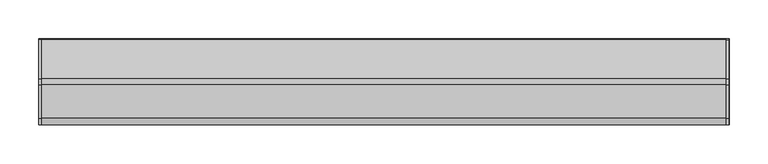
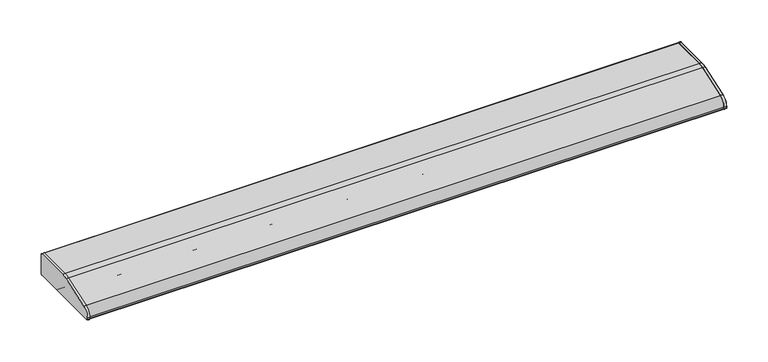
"""IFC4 building model written with IfcOpenShell, lengths in millimetres: light fixture geometry, HermanMiller_SupplementalProducts_G6136_UtilityTaskLight : AO Etho Canvas 42W."""

from ifc_helpers import new_model, si_unit, point, frame, frame_2d, origin, place, context, project, spatial, polyline, circle_curve, trimmed, segment, composite_curve, outline, extrude, source, transform, mapped, element, save


def light_fixture_63fea846(model_context):
    return source(origin(), model_context, "Body", "SweptSolid", [
        extrude(outline(composite_curve([segment(polyline([(53.975, 1295.4), (-53.975, 1295.4)]), True, "CONTINUOUS"), segment(trimmed(circle_curve(frame_2d((-53.975, 1296.9875)), 1.5875), [point((-53.975, 1295.4))], [point((-55.5625, 1296.9875))], False, "CARTESIAN"), True, "CONTINUOUS"), segment(polyline([(-55.5625, 1296.9875), (-55.5625, 1299.0285714)]), True, "CONTINUOUS"), segment(trimmed(circle_curve(frame_2d((-42.8625, 1299.0285714)), 12.7), [point((-55.5625, 1299.0285714))], [point((-46.9814189, 1311.0420849))], False, "CARTESIAN"), True, "CONTINUOUS"), segment(polyline([(-46.9814189, 1311.0420849), (-4.0045045, 1325.777027)]), True, "CONTINUOUS"), segment(trimmed(circle_curve(frame_2d((4.2333333, 1301.75)), 25.4), [point((-4.0045045, 1325.777027))], [point((4.2333333, 1327.15))], False, "CARTESIAN"), True, "CONTINUOUS"), segment(polyline([(4.2333333, 1327.15), (53.975, 1327.15)]), True, "CONTINUOUS"), segment(trimmed(circle_curve(frame_2d((53.975, 1325.5625)), 1.5875), [point((53.975, 1327.15))], [point((55.5625, 1325.5625))], False, "CARTESIAN"), True, "CONTINUOUS"), segment(polyline([(55.5625, 1325.5625), (55.5625, 1296.9875)]), True, "CONTINUOUS"), segment(trimmed(circle_curve(frame_2d((53.975, 1296.9875)), 1.5875), [point((55.5625, 1296.9875))], [point((53.975, 1295.4))], False, "CARTESIAN"), True, "CONTINUOUS")], self_intersect=False)), frame((441.833, 0.0, 0.0), z_axis=(1.0, 0.0, 0.0), x_axis=(0.0, 1.0, 0.0)), (0.0, 0.0, 1.0), 3.175),
        extrude(outline(composite_curve([segment(trimmed(circle_curve(frame_2d((53.975, 1325.5625)), 1.5875), [point((53.975, 1327.15))], [point((55.5625, 1325.5625))], False, "CARTESIAN"), True, "CONTINUOUS"), segment(polyline([(55.5625, 1325.5625), (55.5625, 1296.9875)]), True, "CONTINUOUS"), segment(trimmed(circle_curve(frame_2d((53.975, 1296.9875)), 1.5875), [point((55.5625, 1296.9875))], [point((53.975, 1295.4))], False, "CARTESIAN"), True, "CONTINUOUS"), segment(polyline([(53.975, 1295.4), (-53.975, 1295.4)]), True, "CONTINUOUS"), segment(trimmed(circle_curve(frame_2d((-53.975, 1296.9875)), 1.5875), [point((-53.975, 1295.4))], [point((-55.5625, 1296.9875))], False, "CARTESIAN"), True, "CONTINUOUS"), segment(polyline([(-55.5625, 1296.9875), (-55.5625, 1299.0285714)]), True, "CONTINUOUS"), segment(trimmed(circle_curve(frame_2d((-42.8625, 1299.0285714)), 12.7), [point((-55.5625, 1299.0285714))], [point((-46.9814189, 1311.0420849))], False, "CARTESIAN"), True, "CONTINUOUS"), segment(polyline([(-46.9814189, 1311.0420849), (-4.0045045, 1325.777027)]), True, "CONTINUOUS"), segment(trimmed(circle_curve(frame_2d((4.2333333, 1301.75)), 25.4), [point((-4.0045045, 1325.777027))], [point((4.2333333, 1327.15))], False, "CARTESIAN"), True, "CONTINUOUS"), segment(polyline([(4.2333333, 1327.15), (53.975, 1327.15)]), True, "CONTINUOUS")], self_intersect=False)), frame((-445.008, 0.0, 0.0), z_axis=(1.0, 0.0, 0.0), x_axis=(0.0, 1.0, 0.0)), (0.0, 0.0, 1.0), 3.175),
        extrude(outline(composite_curve([segment(polyline([(55.5625, 1325.5625), (55.5625, 1296.9875)]), True, "CONTINUOUS"), segment(trimmed(circle_curve(frame_2d((53.975, 1296.9875)), 1.5875), [point((55.5625, 1296.9875))], [point((53.975, 1295.4))], False, "CARTESIAN"), True, "CONTINUOUS"), segment(polyline([(53.975, 1295.4), (19.05, 1295.4)]), True, "CONTINUOUS"), segment(trimmed(circle_curve(frame_2d((19.05, 1296.9875)), 1.5875), [point((19.05, 1295.4))], [point((17.4625, 1296.9875))], False, "CARTESIAN"), True, "CONTINUOUS"), segment(polyline([(17.4625, 1296.9875), (17.4625, 1325.5625), (4.4979167, 1325.5625)]), True, "CONTINUOUS"), segment(trimmed(circle_curve(frame_2d((4.4979167, 1300.1625)), 25.4), [point((4.4979167, 1325.5625))], [point((-3.7399212, 1324.189527))], True, "CARTESIAN"), True, "CONTINUOUS"), segment(polyline([(-3.7399212, 1324.189527), (-37.4564189, 1312.6295849)]), True, "CONTINUOUS"), segment(trimmed(circle_curve(frame_2d((-33.3375, 1300.6160714)), 12.7), [point((-37.4564189, 1312.6295849))], [point((-46.0375, 1300.6160714))], True, "CARTESIAN"), True, "CONTINUOUS"), segment(polyline([(-46.0375, 1300.6160714), (-46.0375, 1296.9875)]), True, "CONTINUOUS"), segment(trimmed(circle_curve(frame_2d((-47.625, 1296.9875)), 1.5875), [point((-46.0375, 1296.9875))], [point((-47.625, 1295.4))], False, "CARTESIAN"), True, "CONTINUOUS"), segment(polyline([(-47.625, 1295.4), (-53.975, 1295.4)]), True, "CONTINUOUS"), segment(trimmed(circle_curve(frame_2d((-53.975, 1296.9875)), 1.5875), [point((-53.975, 1295.4))], [point((-55.5625, 1296.9875))], False, "CARTESIAN"), True, "CONTINUOUS"), segment(polyline([(-55.5625, 1296.9875), (-55.5625, 1299.0285714)]), True, "CONTINUOUS"), segment(trimmed(circle_curve(frame_2d((-42.8625, 1299.0285714)), 12.7), [point((-55.5625, 1299.0285714))], [point((-46.9814189, 1311.0420849))], False, "CARTESIAN"), True, "CONTINUOUS"), segment(polyline([(-46.9814189, 1311.0420849), (-4.0045045, 1325.777027)]), True, "CONTINUOUS"), segment(trimmed(circle_curve(frame_2d((4.2333333, 1301.75)), 25.4), [point((-4.0045045, 1325.777027))], [point((4.2333333, 1327.15))], False, "CARTESIAN"), True, "CONTINUOUS"), segment(polyline([(4.2333333, 1327.15), (53.975, 1327.15)]), True, "CONTINUOUS"), segment(trimmed(circle_curve(frame_2d((53.975, 1325.5625)), 1.5875), [point((53.975, 1327.15))], [point((55.5625, 1325.5625))], False, "CARTESIAN"), True, "CONTINUOUS")], self_intersect=False)), frame((-445.008, 0.0, 0.0), z_axis=(1.0, 0.0, 0.0), x_axis=(0.0, 1.0, 0.0)), (0.0, 0.0, 1.0), 890.4820011),
        extrude(outline(composite_curve([segment(trimmed(circle_curve(frame_2d((1.5875, 1312.8625)), 9.525), [point((-7.9375, 1312.8625))], [point((11.1125, 1312.8625))], False, "CARTESIAN"), True, "CONTINUOUS"), segment(trimmed(circle_curve(frame_2d((1.5875, 1312.8625)), 9.525), [point((11.1125, 1312.8625))], [point((-7.9375, 1312.8625))], False, "CARTESIAN"), True, "CONTINUOUS")], self_intersect=False)), frame((419.608, 0.0, 0.0), z_axis=(1.0, 0.0, 0.0), x_axis=(0.0, 1.0, 0.0)), (0.0, 0.0, 1.0), 12.7),
        extrude(outline(composite_curve([segment(trimmed(circle_curve(frame_2d((1.5875, 1312.8625)), 9.525), [point((-7.9375, 1312.8625))], [point((11.1125, 1312.8625))], False, "CARTESIAN"), True, "CONTINUOUS"), segment(trimmed(circle_curve(frame_2d((1.5875, 1312.8625)), 9.525), [point((11.1125, 1312.8625))], [point((-7.9375, 1312.8625))], False, "CARTESIAN"), True, "CONTINUOUS")], self_intersect=False)), frame((-432.308, 0.0, 0.0), z_axis=(1.0, 0.0, 0.0), x_axis=(0.0, 1.0, 0.0)), (0.0, 0.0, 1.0), 12.7),
        extrude(outline(composite_curve([segment(trimmed(circle_curve(frame_2d((1.5875, 1312.8625)), 9.525), [point((-7.9375, 1312.8625))], [point((11.1125, 1312.8625))], False, "CARTESIAN"), True, "CONTINUOUS"), segment(trimmed(circle_curve(frame_2d((1.5875, 1312.8625)), 9.525), [point((11.1125, 1312.8625))], [point((-7.9375, 1312.8625))], False, "CARTESIAN"), True, "CONTINUOUS")], self_intersect=False)), frame((-419.608, 0.0, 0.0), z_axis=(1.0, 0.0, 0.0), x_axis=(0.0, 1.0, 0.0)), (0.0, 0.0, 1.0), 839.216),
        extrude(outline(composite_curve([segment(polyline([(17.4625, 1298.575), (-46.0375, 1298.575), (-46.0375, 1300.6160714)]), True, "CONTINUOUS"), segment(trimmed(circle_curve(frame_2d((-33.3375, 1300.6160714)), 12.7), [point((-46.0375, 1300.6160714))], [point((-37.4564189, 1312.6295849))], False, "CARTESIAN"), True, "CONTINUOUS"), segment(polyline([(-37.4564189, 1312.6295849), (-3.7399212, 1324.189527)]), True, "CONTINUOUS"), segment(trimmed(circle_curve(frame_2d((4.4979167, 1300.1625)), 25.4), [point((-3.7399212, 1324.189527))], [point((4.4979167, 1325.5625))], False, "CARTESIAN"), True, "CONTINUOUS"), segment(polyline([(4.4979167, 1325.5625), (17.4625, 1325.5625), (17.4625, 1298.575)]), True, "CONTINUOUS")], self_intersect=False)), frame((432.308, 0.0, 0.0), z_axis=(1.0, 0.0, 0.0), x_axis=(0.0, 1.0, 0.0)), (0.0, 0.0, 1.0), 9.525),
        extrude(outline(composite_curve([segment(polyline([(17.4625, 1298.575), (-46.0375, 1298.575), (-46.0375, 1300.6160714)]), True, "CONTINUOUS"), segment(trimmed(circle_curve(frame_2d((-33.3375, 1300.6160714)), 12.7), [point((-46.0375, 1300.6160714))], [point((-37.4564189, 1312.6295849))], False, "CARTESIAN"), True, "CONTINUOUS"), segment(polyline([(-37.4564189, 1312.6295849), (-3.7399212, 1324.189527)]), True, "CONTINUOUS"), segment(trimmed(circle_curve(frame_2d((4.4979167, 1300.1625)), 25.4), [point((-3.7399212, 1324.189527))], [point((4.4979167, 1325.5625))], False, "CARTESIAN"), True, "CONTINUOUS"), segment(polyline([(4.4979167, 1325.5625), (17.4625, 1325.5625), (17.4625, 1298.575)]), True, "CONTINUOUS")], self_intersect=False)), frame((-441.833, 0.0, 0.0), z_axis=(1.0, 0.0, 0.0), x_axis=(0.0, 1.0, 0.0)), (0.0, 0.0, 1.0), 9.525),
    ])


if __name__ == "__main__":
    model = new_model("IFC4")
    model_context = context("Model", 3, world=origin())
    ifc_project = project(units=[si_unit("LENGTHUNIT", "METRE", prefix="MILLI")], contexts=[model_context])
    site = spatial("IfcSite", under=ifc_project)
    building = spatial("IfcBuilding", under=site)
    placement = place(None, origin())
    light_fixture_shape = light_fixture_63fea846(model_context)
    element("IfcLightFixture", 1, ObjectType="HermanMiller_SupplementalProducts_G6136_UtilityTaskLight : AO Etho Canvas 42W", at=placement, inside=building, context=model_context, shape_type="MappedRepresentation", body=[
        mapped(light_fixture_shape, transform((0.0, 0.0, 0.0), x_axis=(1.0, 0.0, 0.0), y_axis=(0.0, 1.0, 0.0), z_axis=(0.0, 0.0, 1.0))),
    ])
    save(model, "model.ifc")
